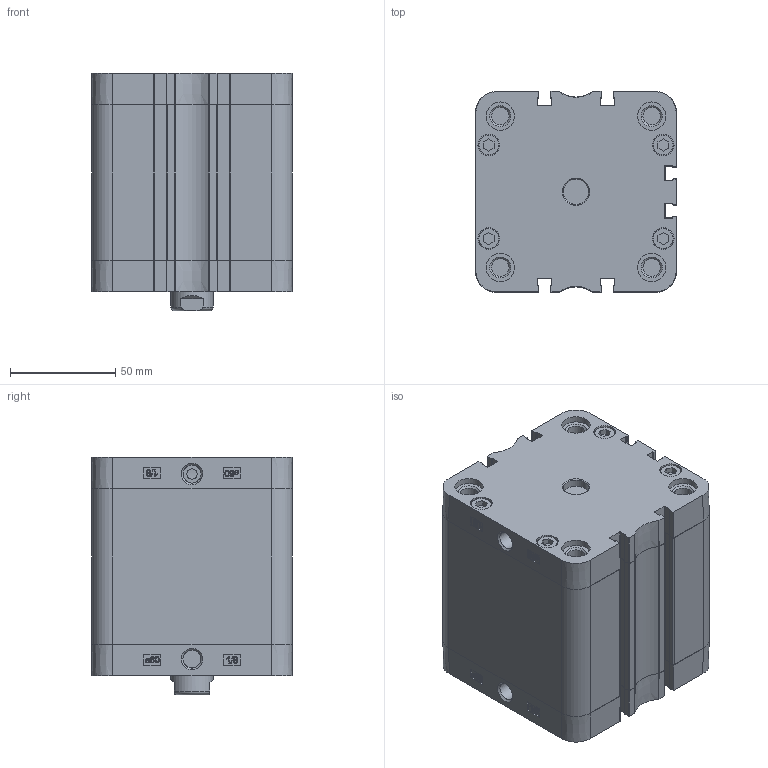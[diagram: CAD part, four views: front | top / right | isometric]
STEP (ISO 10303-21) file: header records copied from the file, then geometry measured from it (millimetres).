
FILE_DESCRIPTION(/* description */ ('Unknown'),/* implementation_level */ '2;1');
FILE_NAME(/* name */ 'ZIN 80_50',/* time_stamp */ '2024-11-12T08:18:30+01:00',/* author */ ('Unknown'),/* organization */ ('HAFNER Pneumatika Kft.'),/* preprocessor_version */ 'ST-DEVELOPER v18.102',/* originating_system */ 'Solid Edge',/* authorisation */ 'Unknown');
FILE_SCHEMA (('AUTOMOTIVE_DESIGN {1 0 10303 214 3 1 1}'));
Length unit declared in the file: millimetre
Products named in the file (5): ZIN 80_50; Kit_1; Kit_2; Kolbenstange; Profilrohr
Assembly tree (4 placements, depth 2):
  ZIN 80_50
    Kit_1
    Kit_2
    Kolbenstange
    Profilrohr
Bounding box: 95.5 x 95.5 x 113 mm (x, y, z)
Volume: 659820.8 mm3; surface area: 137049.9 mm2
Topology: 4 solids, 4 shells, 731 faces, 1944 edges, 1291 vertices
Faces by surface type: plane 341, cylinder 208, bspline 122, cone 41, torus 19
Full cylindrical faces by diameter (mm): 5 x1, 8.376 x8, 8.566 x2, 9.8 x8, 10.106 x2, 10.3 x8, 12 x1, 13.5 x8, 20 x1, 20.6 x1, 21.9 x1, 23 x1, 25 x1, 80 x2
Entity records: 27386 total; most frequent: CARTESIAN_POINT 5712, ORIENTED_EDGE 3634, DIRECTION 3264, EDGE_CURVE 1817, VERTEX_POINT 1260, AXIS2_PLACEMENT_3D 1098, LINE 1068, VECTOR 1068
